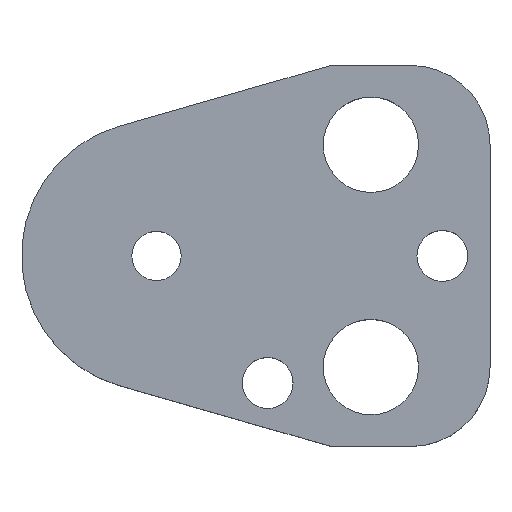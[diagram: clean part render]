
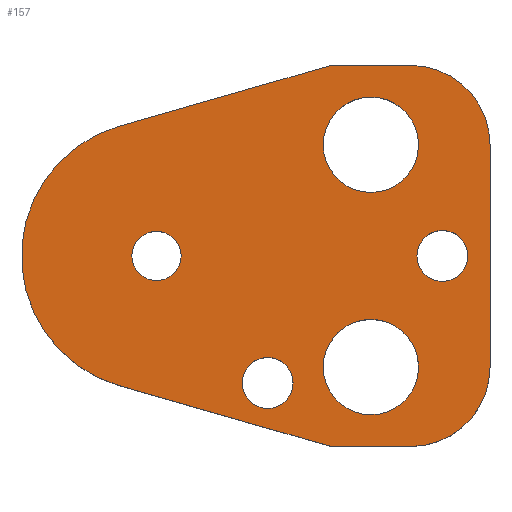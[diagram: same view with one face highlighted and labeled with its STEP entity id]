
A CAD part, top view. The second image highlights one B-rep face of the part: STEP entity #157.
In plain terms, the highlighted planar face has unit normal (0, 0, 1).
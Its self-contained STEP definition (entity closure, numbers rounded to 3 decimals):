
#103=FACE_BOUND('',#207,.T.);
#104=FACE_BOUND('',#208,.T.);
#105=FACE_BOUND('',#209,.T.);
#106=FACE_BOUND('',#210,.T.);
#107=FACE_BOUND('',#211,.T.);
#108=FACE_BOUND('',#212,.T.);
#122=CIRCLE('',#480,10.);
#124=CIRCLE('',#484,10.);
#127=CIRCLE('',#490,17.);
#138=CIRCLE('',#503,3.2);
#139=CIRCLE('',#504,3.2);
#140=CIRCLE('',#505,6.);
#141=CIRCLE('',#506,6.);
#142=CIRCLE('',#507,6.);
#143=CIRCLE('',#508,6.);
#144=CIRCLE('',#509,3.2);
#145=CIRCLE('',#510,3.2);
#146=CIRCLE('',#511,3.1);
#147=CIRCLE('',#512,3.1);
#157=ADVANCED_FACE('',(#103,#104,#105,#106,#107,#108),#174,.T.);
#174=PLANE('',#513);
#207=EDGE_LOOP('',(#273,#274,#275,#276,#277,#278,#279,#280));
#208=EDGE_LOOP('',(#281,#282));
#209=EDGE_LOOP('',(#283,#284));
#210=EDGE_LOOP('',(#285,#286));
#211=EDGE_LOOP('',(#287,#288));
#212=EDGE_LOOP('',(#289,#290));
#273=ORIENTED_EDGE('',*,*,#368,.T.);
#274=ORIENTED_EDGE('',*,*,#372,.T.);
#275=ORIENTED_EDGE('',*,*,#375,.T.);
#276=ORIENTED_EDGE('',*,*,#378,.T.);
#277=ORIENTED_EDGE('',*,*,#381,.T.);
#278=ORIENTED_EDGE('',*,*,#384,.T.);
#279=ORIENTED_EDGE('',*,*,#387,.T.);
#280=ORIENTED_EDGE('',*,*,#390,.T.);
#281=ORIENTED_EDGE('',*,*,#401,.T.);
#282=ORIENTED_EDGE('',*,*,#402,.T.);
#283=ORIENTED_EDGE('',*,*,#403,.T.);
#284=ORIENTED_EDGE('',*,*,#404,.T.);
#285=ORIENTED_EDGE('',*,*,#405,.T.);
#286=ORIENTED_EDGE('',*,*,#406,.T.);
#287=ORIENTED_EDGE('',*,*,#407,.T.);
#288=ORIENTED_EDGE('',*,*,#408,.T.);
#289=ORIENTED_EDGE('',*,*,#409,.T.);
#290=ORIENTED_EDGE('',*,*,#410,.T.);
#332=VERTEX_POINT('',#649);
#333=VERTEX_POINT('',#651);
#336=VERTEX_POINT('',#658);
#338=VERTEX_POINT('',#664);
#340=VERTEX_POINT('',#670);
#342=VERTEX_POINT('',#676);
#344=VERTEX_POINT('',#682);
#346=VERTEX_POINT('',#688);
#357=VERTEX_POINT('',#717);
#358=VERTEX_POINT('',#718);
#359=VERTEX_POINT('',#721);
#360=VERTEX_POINT('',#722);
#361=VERTEX_POINT('',#725);
#362=VERTEX_POINT('',#726);
#363=VERTEX_POINT('',#729);
#364=VERTEX_POINT('',#730);
#365=VERTEX_POINT('',#733);
#366=VERTEX_POINT('',#734);
#368=EDGE_CURVE('',#333,#332,#422,.T.);
#372=EDGE_CURVE('',#332,#336,#426,.T.);
#375=EDGE_CURVE('',#336,#338,#122,.T.);
#378=EDGE_CURVE('',#338,#340,#430,.T.);
#381=EDGE_CURVE('',#340,#342,#124,.T.);
#384=EDGE_CURVE('',#342,#344,#434,.T.);
#387=EDGE_CURVE('',#344,#346,#437,.T.);
#390=EDGE_CURVE('',#346,#333,#127,.T.);
#401=EDGE_CURVE('',#357,#358,#138,.T.);
#402=EDGE_CURVE('',#358,#357,#139,.T.);
#403=EDGE_CURVE('',#359,#360,#140,.T.);
#404=EDGE_CURVE('',#360,#359,#141,.T.);
#405=EDGE_CURVE('',#361,#362,#142,.T.);
#406=EDGE_CURVE('',#362,#361,#143,.T.);
#407=EDGE_CURVE('',#363,#364,#144,.T.);
#408=EDGE_CURVE('',#364,#363,#145,.T.);
#409=EDGE_CURVE('',#365,#366,#146,.T.);
#410=EDGE_CURVE('',#366,#365,#147,.T.);
#422=LINE('',#650,#450);
#426=LINE('',#659,#454);
#430=LINE('',#671,#458);
#434=LINE('',#683,#462);
#437=LINE('',#689,#465);
#450=VECTOR('',#527,1.);
#454=VECTOR('',#533,1.);
#458=VECTOR('',#545,1.);
#462=VECTOR('',#557,1.);
#465=VECTOR('',#562,1.);
#480=AXIS2_PLACEMENT_3D('',#665,#538,#539);
#484=AXIS2_PLACEMENT_3D('',#677,#550,#551);
#490=AXIS2_PLACEMENT_3D('',#693,#568,#569);
#503=AXIS2_PLACEMENT_3D('',#716,#594,#595);
#504=AXIS2_PLACEMENT_3D('',#719,#596,#597);
#505=AXIS2_PLACEMENT_3D('',#720,#598,#599);
#506=AXIS2_PLACEMENT_3D('',#723,#600,#601);
#507=AXIS2_PLACEMENT_3D('',#724,#602,#603);
#508=AXIS2_PLACEMENT_3D('',#727,#604,#605);
#509=AXIS2_PLACEMENT_3D('',#728,#606,#607);
#510=AXIS2_PLACEMENT_3D('',#731,#608,#609);
#511=AXIS2_PLACEMENT_3D('',#732,#610,#611);
#512=AXIS2_PLACEMENT_3D('',#735,#612,#613);
#513=AXIS2_PLACEMENT_3D('',#736,#614,#615);
#527=DIRECTION('',(0.961,-0.276,0.));
#533=DIRECTION('',(1.,0.,0.));
#538=DIRECTION('',(0.,0.,1.));
#539=DIRECTION('',(-0.707,0.707,0.));
#545=DIRECTION('',(0.,1.,0.));
#550=DIRECTION('',(0.,0.,1.));
#551=DIRECTION('',(-0.707,-0.707,0.));
#557=DIRECTION('',(-1.,0.,0.));
#562=DIRECTION('',(-0.961,-0.276,0.));
#568=DIRECTION('',(0.,0.,1.));
#569=DIRECTION('',(1.,0.,0.));
#594=DIRECTION('',(0.,0.,-1.));
#595=DIRECTION('',(-1.,0.,0.));
#596=DIRECTION('',(0.,0.,-1.));
#597=DIRECTION('',(1.,0.,0.));
#598=DIRECTION('',(0.,0.,-1.));
#599=DIRECTION('',(-1.,0.,0.));
#600=DIRECTION('',(0.,0.,-1.));
#601=DIRECTION('',(1.,0.,0.));
#602=DIRECTION('',(0.,0.,-1.));
#603=DIRECTION('',(-1.,0.,0.));
#604=DIRECTION('',(0.,0.,-1.));
#605=DIRECTION('',(1.,0.,0.));
#606=DIRECTION('',(0.,0.,-1.));
#607=DIRECTION('',(-1.,0.,0.));
#608=DIRECTION('',(0.,0.,-1.));
#609=DIRECTION('',(1.,0.,0.));
#610=DIRECTION('',(0.,0.,-1.));
#611=DIRECTION('',(-1.,0.,0.));
#612=DIRECTION('',(0.,0.,-1.));
#613=DIRECTION('',(1.,0.,0.));
#614=DIRECTION('',(0.,0.,1.));
#615=DIRECTION('',(0.961,-0.276,0.));
#649=CARTESIAN_POINT('',(22.,-24.,10.));
#650=CARTESIAN_POINT('',(22.,-24.,10.));
#651=CARTESIAN_POINT('',(-4.69,-16.34,10.));
#658=CARTESIAN_POINT('',(32.,-24.,10.));
#659=CARTESIAN_POINT('',(22.,-24.,10.));
#664=CARTESIAN_POINT('',(42.,-14.,10.));
#665=CARTESIAN_POINT('',(32.,-14.,10.));
#670=CARTESIAN_POINT('',(42.,14.,10.));
#671=CARTESIAN_POINT('',(42.,14.,10.));
#676=CARTESIAN_POINT('',(32.,24.,10.));
#677=CARTESIAN_POINT('',(32.,14.,10.));
#682=CARTESIAN_POINT('',(22.,24.,10.));
#683=CARTESIAN_POINT('',(22.,24.,10.));
#688=CARTESIAN_POINT('',(-4.69,16.34,10.));
#689=CARTESIAN_POINT('',(22.,24.,10.));
#693=CARTESIAN_POINT('',(0.,0.,10.));
#716=CARTESIAN_POINT('',(36.,0.,10.));
#717=CARTESIAN_POINT('',(36.,3.2,10.));
#718=CARTESIAN_POINT('',(36.,-3.2,10.));
#719=CARTESIAN_POINT('',(36.,0.,10.));
#720=CARTESIAN_POINT('',(27.,14.,10.));
#721=CARTESIAN_POINT('',(27.,20.,10.));
#722=CARTESIAN_POINT('',(27.,8.,10.));
#723=CARTESIAN_POINT('',(27.,14.,10.));
#724=CARTESIAN_POINT('',(27.,-14.,10.));
#725=CARTESIAN_POINT('',(27.,-8.,10.));
#726=CARTESIAN_POINT('',(27.,-20.,10.));
#727=CARTESIAN_POINT('',(27.,-14.,10.));
#728=CARTESIAN_POINT('',(14.,-16.,10.));
#729=CARTESIAN_POINT('',(14.,-12.8,10.));
#730=CARTESIAN_POINT('',(14.,-19.2,10.));
#731=CARTESIAN_POINT('',(14.,-16.,10.));
#732=CARTESIAN_POINT('',(0.,0.,10.));
#733=CARTESIAN_POINT('',(0.,3.1,10.));
#734=CARTESIAN_POINT('',(0.,-3.1,10.));
#735=CARTESIAN_POINT('',(0.,0.,10.));
#736=CARTESIAN_POINT('',(-4.69,-16.34,10.));
